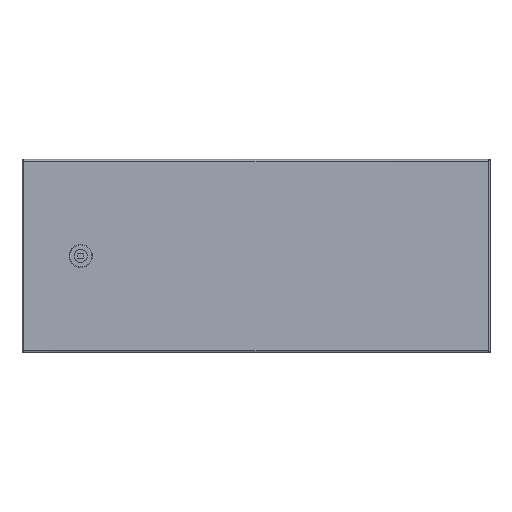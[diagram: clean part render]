
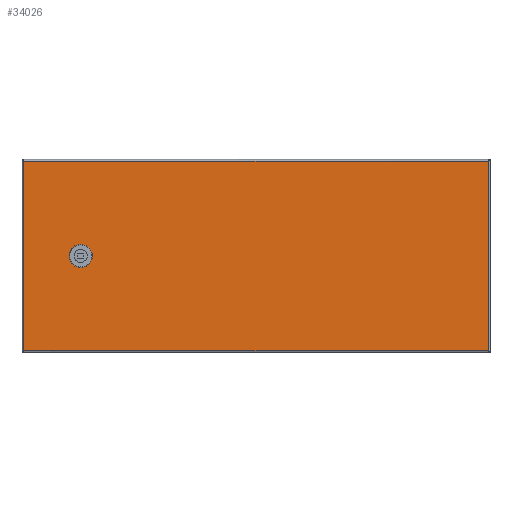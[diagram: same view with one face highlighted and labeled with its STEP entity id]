
A CAD part, top view. The second image highlights one B-rep face of the part: STEP entity #34026.
In plain terms, the highlighted planar face has unit normal (0, 0, 1).
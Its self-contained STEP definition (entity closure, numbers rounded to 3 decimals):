
#31801=CARTESIAN_POINT(' ',(591.7,120.2,0.));
#31806=DIRECTION(' ',(-1.,0.,0.));
#31811=VECTOR(' ',#31806,1.);
#31816=LINE('',#31801,#31811);
#31821=CARTESIAN_POINT(' ',(591.7,120.2,0.));
#31822=VERTEX_POINT(' ',#31821);
#31826=CARTESIAN_POINT(' ',(2.3,120.2,0.));
#31827=VERTEX_POINT(' ',#31826);
#31831=EDGE_CURVE(' ',#31822,#31827,#31816,.T.);
#33886=DIRECTION(' ',(-0.,-0.,1.));
#33891=CARTESIAN_POINT(' ',(591.7,-120.2,0.));
#33896=DIRECTION(' ',(0.,1.,0.));
#33901=AXIS2_PLACEMENT_3D(' ',#33891,#33886,#33896);
#33906=PLANE('NONE',#33901);
#33911=CARTESIAN_POINT(' ',(2.3,-120.2,0.));
#33916=DIRECTION(' ',(1.,0.,0.));
#33921=VECTOR(' ',#33916,1.);
#33926=LINE('',#33911,#33921);
#33931=CARTESIAN_POINT(' ',(2.3,-120.2,0.));
#33932=VERTEX_POINT(' ',#33931);
#33936=CARTESIAN_POINT(' ',(591.7,-120.2,0.));
#33937=VERTEX_POINT(' ',#33936);
#33941=EDGE_CURVE(' ',#33932,#33937,#33926,.T.);
#33946=ORIENTED_EDGE(' ',*,*,#33941,.T.);
#33951=CARTESIAN_POINT(' ',(591.7,120.2,0.));
#33956=DIRECTION(' ',(0.,-1.,0.));
#33961=VECTOR(' ',#33956,1.);
#33966=LINE('',#33951,#33961);
#33971=EDGE_CURVE(' ',#31822,#33937,#33966,.T.);
#33976=ORIENTED_EDGE(' ',*,*,#33971,.F.);
#33981=ORIENTED_EDGE(' ',*,*,#31831,.T.);
#33986=CARTESIAN_POINT(' ',(2.3,120.2,0.));
#33991=DIRECTION(' ',(0.,-1.,0.));
#33996=VECTOR(' ',#33991,1.);
#34001=LINE('',#33986,#33996);
#34006=EDGE_CURVE(' ',#31827,#33932,#34001,.T.);
#34011=ORIENTED_EDGE(' ',*,*,#34006,.T.);
#34016=EDGE_LOOP(' ',(#33946,#33976,#33981,#34011));
#34021=FACE_OUTER_BOUND(' ',#34016,.T.);
#34026=ADVANCED_FACE('NONE',(#34021),#33906,.T.);
